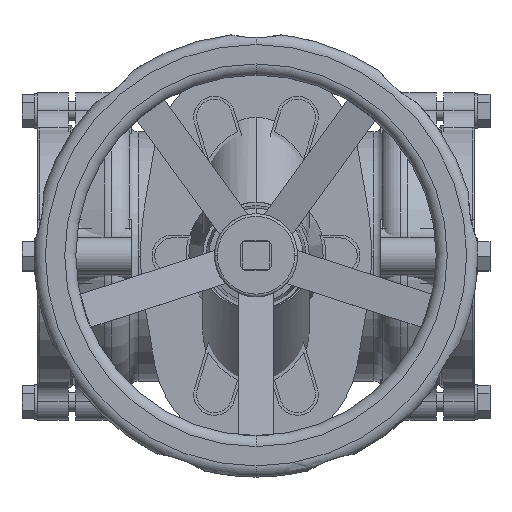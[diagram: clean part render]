
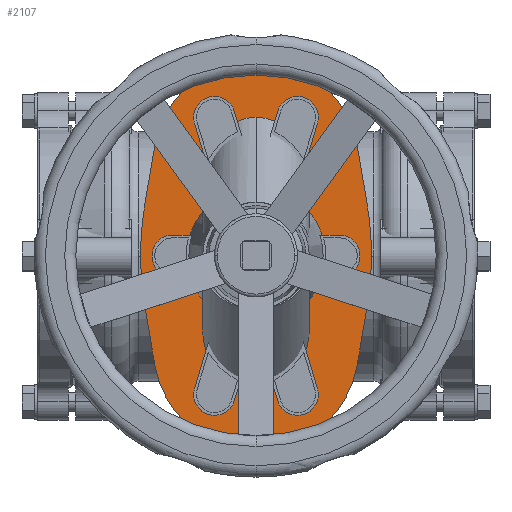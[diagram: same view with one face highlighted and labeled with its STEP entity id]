
A CAD part, top view. The second image highlights one B-rep face of the part: STEP entity #2107.
In plain terms, the highlighted planar face has unit normal (0, 0, 1).
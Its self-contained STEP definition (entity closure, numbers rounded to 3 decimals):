
#2107=ADVANCED_FACE('',(#4376),#4377,.T.);
#4376=FACE_OUTER_BOUND('',#7522,.T.);
#4377=PLANE('',#7523);
#7522=EDGE_LOOP('',(#10972,#10973,#10974,#10975,#10976,#10977,#10978,#10979,#10980,#10981,#10982));
#7523=AXIS2_PLACEMENT_3D('',#10983,#10984,#10985);
#10972=ORIENTED_EDGE('',*,*,#17272,.T.);
#10973=ORIENTED_EDGE('',*,*,#17555,.T.);
#10974=ORIENTED_EDGE('',*,*,#17556,.T.);
#10975=ORIENTED_EDGE('',*,*,#17557,.T.);
#10976=ORIENTED_EDGE('',*,*,#17558,.T.);
#10977=ORIENTED_EDGE('',*,*,#17559,.T.);
#10978=ORIENTED_EDGE('',*,*,#17560,.T.);
#10979=ORIENTED_EDGE('',*,*,#17561,.T.);
#10980=ORIENTED_EDGE('',*,*,#17562,.T.);
#10981=ORIENTED_EDGE('',*,*,#17563,.T.);
#10982=ORIENTED_EDGE('',*,*,#17564,.T.);
#10983=CARTESIAN_POINT('',(47.484,0.505,224.0));
#10984=DIRECTION('',(0.0,0.0,1.0));
#10985=DIRECTION('',(1.0,0.0,0.0));
#17272=EDGE_CURVE('',#20411,#20409,#20412,.T.);
#17555=EDGE_CURVE('',#20409,#20887,#20888,.T.);
#17556=EDGE_CURVE('',#20887,#20889,#20890,.T.);
#17557=EDGE_CURVE('',#20889,#20891,#20892,.T.);
#17558=EDGE_CURVE('',#20891,#20893,#20894,.T.);
#17559=EDGE_CURVE('',#20893,#20895,#20896,.T.);
#17560=EDGE_CURVE('',#20895,#20897,#20898,.T.);
#17561=EDGE_CURVE('',#20897,#20899,#20900,.T.);
#17562=EDGE_CURVE('',#20899,#20901,#20902,.T.);
#17563=EDGE_CURVE('',#20901,#20903,#20904,.T.);
#17564=EDGE_CURVE('',#20903,#20411,#20905,.T.);
#20409=VERTEX_POINT('',#24803);
#20411=VERTEX_POINT('',#24806);
#20412=LINE('',#24807,#24808);
#20887=VERTEX_POINT('',#25558);
#20888=CIRCLE('',#25559,224.047);
#20889=VERTEX_POINT('',#25560);
#20890=CIRCLE('',#25561,224.047);
#20891=VERTEX_POINT('',#25562);
#20892=LINE('',#25563,#25564);
#20893=VERTEX_POINT('',#25565);
#20894=CIRCLE('',#25566,74.);
#20895=VERTEX_POINT('',#25567);
#20896=LINE('',#25568,#25569);
#20897=VERTEX_POINT('',#25570);
#20898=CIRCLE('',#25571,222.828);
#20899=VERTEX_POINT('',#25572);
#20900=CIRCLE('',#25573,222.828);
#20901=VERTEX_POINT('',#25574);
#20902=CIRCLE('',#25575,222.828);
#20903=VERTEX_POINT('',#25576);
#20904=LINE('',#25577,#25578);
#20905=CIRCLE('',#25579,74.);
#24803=CARTESIAN_POINT('',(127.554,-37.205,224.0));
#24806=CARTESIAN_POINT('',(120.444,-78.845,224.0));
#24807=CARTESIAN_POINT('',(120.444,-78.845,224.0));
#24808=VECTOR('',#29604,1.0);
#25558=CARTESIAN_POINT('',(130.751,0.505,224.0));
#25559=AXIS2_PLACEMENT_3D('',#30003,#30004,#30005);
#25560=CARTESIAN_POINT('',(127.554,38.214,224.0));
#25561=AXIS2_PLACEMENT_3D('',#30006,#30007,#30008);
#25562=CARTESIAN_POINT('',(120.444,79.855,224.0));
#25563=CARTESIAN_POINT('',(127.554,38.214,224.0));
#25564=VECTOR('',#30009,1.0);
#25565=CARTESIAN_POINT('',(-25.444,79.855,224.0));
#25566=AXIS2_PLACEMENT_3D('',#30010,#30011,#30012);
#25567=CARTESIAN_POINT('',(-32.556,38.206,224.0));
#25568=CARTESIAN_POINT('',(-25.444,79.855,224.0));
#25569=VECTOR('',#30013,1.0);
#25570=CARTESIAN_POINT('',(-35.735,0.701,224.0));
#25571=AXIS2_PLACEMENT_3D('',#30014,#30015,#30016);
#25572=CARTESIAN_POINT('',(-35.732,-0.394,224.0));
#25573=AXIS2_PLACEMENT_3D('',#30017,#30018,#30019);
#25574=CARTESIAN_POINT('',(-32.554,-37.205,224.0));
#25575=AXIS2_PLACEMENT_3D('',#30020,#30021,#30022);
#25576=CARTESIAN_POINT('',(-25.444,-78.845,224.0));
#25577=CARTESIAN_POINT('',(-32.554,-37.205,224.0));
#25578=VECTOR('',#30023,1.0);
#25579=AXIS2_PLACEMENT_3D('',#30024,#30025,#30026);
#29604=DIRECTION('',(0.168,0.986,0.0));
#30003=CARTESIAN_POINT('',(-93.296,0.505,224.0));
#30004=DIRECTION('',(0.0,0.0,1.0));
#30005=DIRECTION('',(1.0,0.0,0.0));
#30006=CARTESIAN_POINT('',(-93.296,0.505,224.0));
#30007=DIRECTION('',(0.0,0.0,1.0));
#30008=DIRECTION('',(1.0,0.0,0.0));
#30009=DIRECTION('',(-0.168,0.986,0.0));
#30010=CARTESIAN_POINT('',(47.5,67.4,224.0));
#30011=DIRECTION('',(0.0,0.0,1.0));
#30012=DIRECTION('',(1.0,0.0,0.0));
#30013=DIRECTION('',(-0.168,-0.986,0.0));
#30014=CARTESIAN_POINT('',(187.093,0.701,224.0));
#30015=DIRECTION('',(0.0,0.0,1.0));
#30016=DIRECTION('',(1.0,0.0,0.0));
#30017=CARTESIAN_POINT('',(187.093,0.701,224.0));
#30018=DIRECTION('',(0.0,0.0,1.0));
#30019=DIRECTION('',(1.0,0.0,0.0));
#30020=CARTESIAN_POINT('',(187.095,0.299,224.0));
#30021=DIRECTION('',(0.0,0.0,1.0));
#30022=DIRECTION('',(1.0,0.0,0.0));
#30023=DIRECTION('',(0.168,-0.986,0.0));
#30024=CARTESIAN_POINT('',(47.5,-66.39,224.0));
#30025=DIRECTION('',(0.0,0.0,1.0));
#30026=DIRECTION('',(1.0,0.0,0.0));
